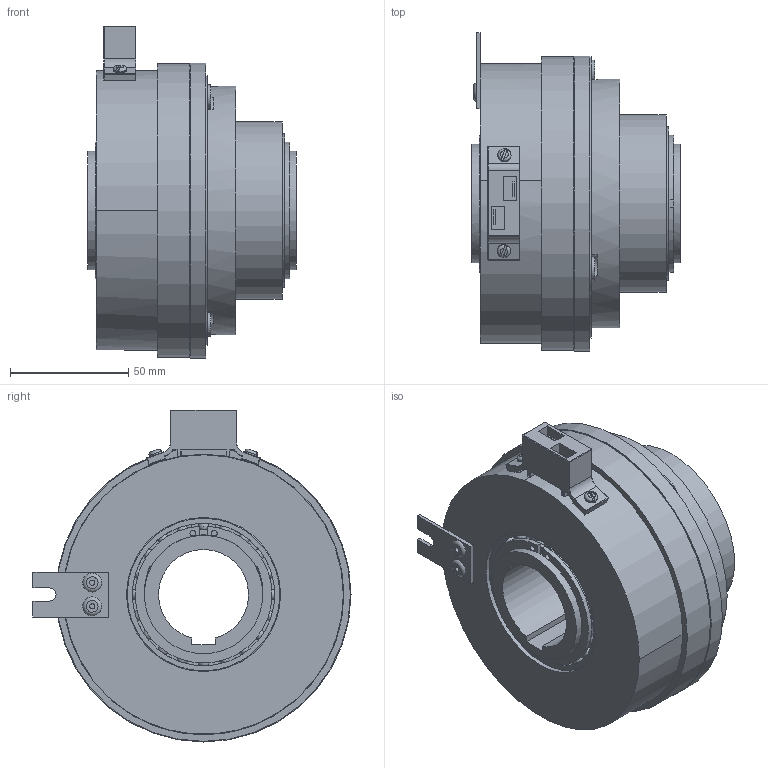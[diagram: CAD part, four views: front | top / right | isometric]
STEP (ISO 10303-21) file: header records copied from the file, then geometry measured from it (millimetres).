
FILE_DESCRIPTION(/* description */ (''),/* implementation_level */ '2;1');
FILE_NAME(/* name */ 'X:\INVENTOR\DISEGNI\08_Freni_Friz_Elettmag_Monodisco\08_26 EMSL_DF\EMSL_DF STEP\08_26_120_41 EMSL120_DF-R_S@STEP.stp',/* time_stamp */ '2018-04-24T09:46:55+02:00',/* author */ ('stefano'),/* organization */ (''),/* preprocessor_version */ 'ST-DEVELOPER v17',/* originating_system */ 'Autodesk Inventor 2018',/* authorisation */ '');
FILE_SCHEMA (('AUTOMOTIVE_DESIGN { 1 0 10303 214 3 1 1 }'));
Length unit declared in the file: millimetre
Products named in the file (1): 08_26_120_41 EMSL120_DF-R - Spina_Substitute_1
Bounding box: 88 x 134.25 x 140.13 mm (x, y, z)
Volume: 566103.3 mm3; surface area: 160919 mm2
Topology: 1 solids, 1 shells, 786 faces, 2631 edges, 1698 vertices
Faces by surface type: cylinder 296, plane 229, torus 161, sphere 84, cone 16
Full cylindrical faces by diameter (mm): 2.2 x5, 2.5 x4, 3 x6, 4.917 x6, 5.6 x2, 6 x3, 6.1 x6, 7.5 x3, 10 x3, 10.5 x3, 47 x1, 50 x6, 54.8 x6, 56 x2, 59 x1, 60.2 x6, 64.5 x1, 65 x6, 75 x1, 77 x1, 81 x1, 105 x1, 110.5 x1, 118.5 x1, 124 x1, 124.5 x1
Entity records: 35034 total; most frequent: CARTESIAN_POINT 11573, ORIENTED_EDGE 4972, DIRECTION 4906, EDGE_CURVE 2486, AXIS2_PLACEMENT_3D 2163, VERTEX_POINT 1698, CIRCLE 1376, EDGE_LOOP 1020
